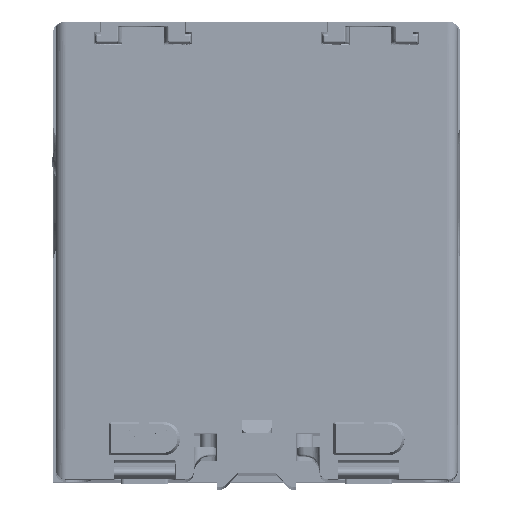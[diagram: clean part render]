
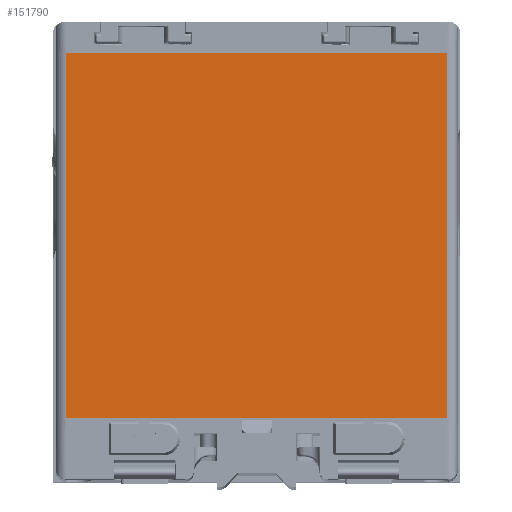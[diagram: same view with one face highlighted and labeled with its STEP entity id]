
A CAD part, top view. The second image highlights one B-rep face of the part: STEP entity #151790.
In plain terms, the highlighted planar face has unit normal (0, 0, 1) as drawn and (1, 0, 0) by its records, which use the part's own axes.
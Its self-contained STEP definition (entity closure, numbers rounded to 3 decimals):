
#6535 = CARTESIAN_POINT ( 'NONE',  ( 27.371, 71., 37. ) ) ;
#30281 = DIRECTION ( 'NONE',  ( 0., 0., 1. ) ) ;
#32530 = VERTEX_POINT ( 'NONE', #123202 ) ;
#42049 = VERTEX_POINT ( 'NONE', #43759 ) ;
#42209 = CARTESIAN_POINT ( 'NONE',  ( 27.371, 71., -37. ) ) ;
#43622 = LINE ( 'NONE', #143528, #76111 ) ;
#43759 = CARTESIAN_POINT ( 'NONE',  ( 27.371, 0., -37. ) ) ;
#45948 = CARTESIAN_POINT ( 'NONE',  ( 27.371, 71., -37. ) ) ;
#47012 = EDGE_CURVE ( 'NONE', #87952, #32530, #71811, .T. ) ;
#48217 = DIRECTION ( 'NONE',  ( 0., -1., 0. ) ) ;
#54516 = CARTESIAN_POINT ( 'NONE',  ( 27.371, 71., -37. ) ) ;
#62671 = DIRECTION ( 'NONE',  ( 0., 0., -1. ) ) ;
#65957 = EDGE_CURVE ( 'NONE', #81874, #42049, #43622, .T. ) ;
#66470 = LINE ( 'NONE', #42209, #105379 ) ;
#66647 = PLANE ( 'NONE',  #91846 ) ;
#68489 = ORIENTED_EDGE ( 'NONE', *, *, #132704, .T. ) ;
#71811 = LINE ( 'NONE', #45948, #147854 ) ;
#72270 = EDGE_CURVE ( 'NONE', #32530, #42049, #66470, .T. ) ;
#76111 = VECTOR ( 'NONE', #156428, 1000. ) ;
#81874 = VERTEX_POINT ( 'NONE', #140515 ) ;
#87952 = VERTEX_POINT ( 'NONE', #6535 ) ;
#89991 = ORIENTED_EDGE ( 'NONE', *, *, #47012, .F. ) ;
#91846 = AXIS2_PLACEMENT_3D ( 'NONE', #54516, #103695, #30281 ) ;
#103695 = DIRECTION ( 'NONE',  ( -1., 0., 0. ) ) ;
#105379 = VECTOR ( 'NONE', #126104, 1000. ) ;
#106324 = LINE ( 'NONE', #109532, #132717 ) ;
#109532 = CARTESIAN_POINT ( 'NONE',  ( 27.371, 71., 37. ) ) ;
#120056 = ORIENTED_EDGE ( 'NONE', *, *, #65957, .T. ) ;
#123202 = CARTESIAN_POINT ( 'NONE',  ( 27.371, 71., -37. ) ) ;
#126104 = DIRECTION ( 'NONE',  ( 0., -1., 0. ) ) ;
#132704 = EDGE_CURVE ( 'NONE', #87952, #81874, #106324, .T. ) ;
#132717 = VECTOR ( 'NONE', #48217, 1000. ) ;
#139157 = FACE_OUTER_BOUND ( 'NONE', #145645, .T. ) ;
#140515 = CARTESIAN_POINT ( 'NONE',  ( 27.371, 0., 37. ) ) ;
#143528 = CARTESIAN_POINT ( 'NONE',  ( 27.371, 0., -37. ) ) ;
#145645 = EDGE_LOOP ( 'NONE', ( #120056, #146145, #89991, #68489 ) ) ;
#146145 = ORIENTED_EDGE ( 'NONE', *, *, #72270, .F. ) ;
#147854 = VECTOR ( 'NONE', #62671, 1000. ) ;
#151790 = ADVANCED_FACE ( 'NONE', ( #139157 ), #66647, .F. ) ;
#156428 = DIRECTION ( 'NONE',  ( 0., 0., -1. ) ) ;
